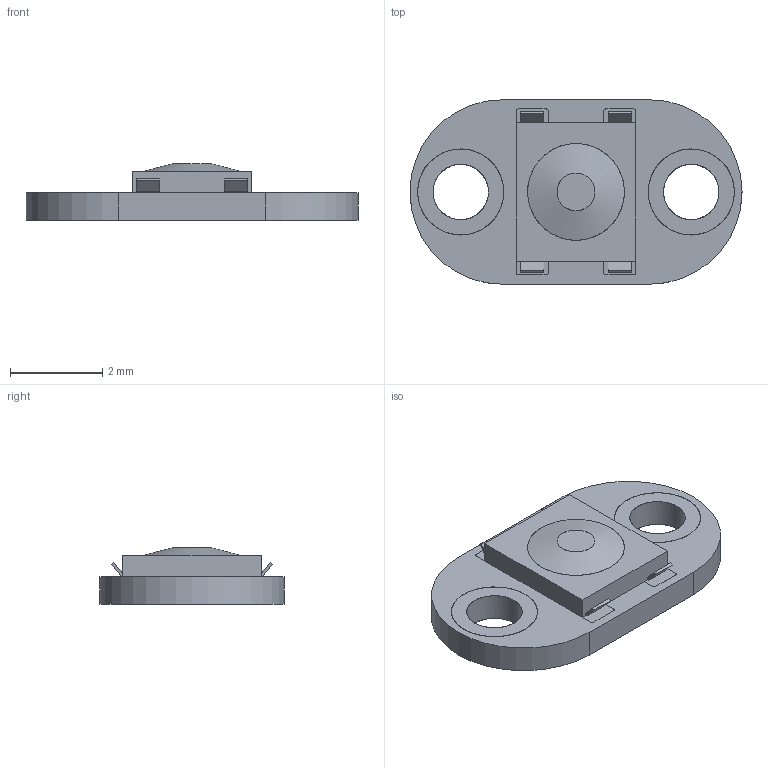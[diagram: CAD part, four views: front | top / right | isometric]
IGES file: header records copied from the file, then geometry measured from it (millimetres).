
Global section: file name: Filename.iges; native system: Open CASCADE 7.4; preprocessor: Open CASCADE IGES processor 7.4; date: 20200821.125442; units: millimetre
Bounding box: 7.2 x 4 x 1.23 mm (x, y, z)
Surface area: 179.5 mm2 (no closed solid volume)
Topology: 0 solids, 0 shells, 160 faces, 710 edges, 668 vertices
Faces by surface type: plane 99, revolution 61
